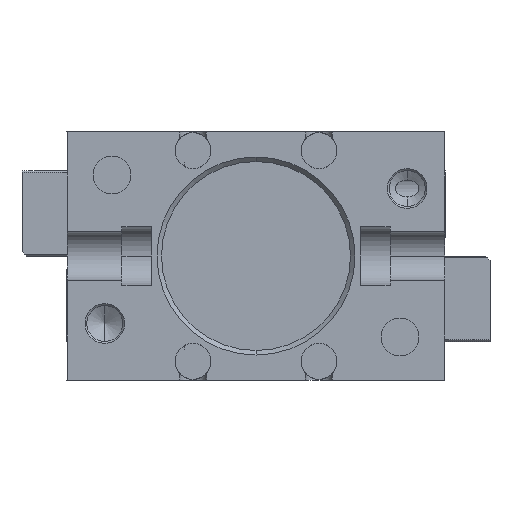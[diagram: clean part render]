
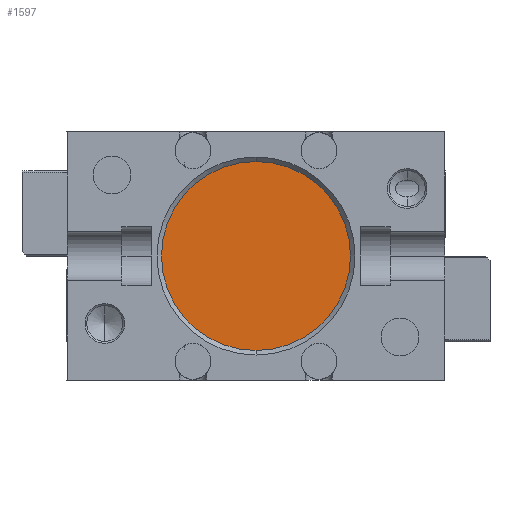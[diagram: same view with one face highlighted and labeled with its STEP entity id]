
A CAD part, front view. The second image highlights one B-rep face of the part: STEP entity #1597.
In plain terms, the highlighted planar face has unit normal (0, -1, 0).
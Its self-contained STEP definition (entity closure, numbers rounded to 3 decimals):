
#1597 = ADVANCED_FACE ( 'NONE', ( #13732 ), #12069, .T. ) ;
#10617 = AXIS2_PLACEMENT_3D ( 'NONE', #39156, #17018, #42867 ) ;
#12051 = DIRECTION ( 'NONE',  ( 0., -1., 0. ) ) ;
#12069 = PLANE ( 'NONE',  #24989 ) ;
#12633 = EDGE_CURVE ( 'NONE', #33869, #12848, #48020, .T. ) ;
#12848 = VERTEX_POINT ( 'NONE', #39812 ) ;
#13522 = ORIENTED_EDGE ( 'NONE', *, *, #14057, .T. ) ;
#13732 = FACE_OUTER_BOUND ( 'NONE', #22447, .T. ) ;
#14057 = EDGE_CURVE ( 'NONE', #12848, #33869, #37617, .T. ) ;
#15767 = DIRECTION ( 'NONE',  ( 0., -1., 0. ) ) ;
#17018 = DIRECTION ( 'NONE',  ( 0., -1., 0. ) ) ;
#22447 = EDGE_LOOP ( 'NONE', ( #37508, #13522 ) ) ;
#24989 = AXIS2_PLACEMENT_3D ( 'NONE', #34231, #15767, #41606 ) ;
#33869 = VERTEX_POINT ( 'NONE', #44218 ) ;
#34208 = CARTESIAN_POINT ( 'NONE',  ( 0., 3., 0. ) ) ;
#34231 = CARTESIAN_POINT ( 'NONE',  ( 0., 3., 0. ) ) ;
#35700 = AXIS2_PLACEMENT_3D ( 'NONE', #34208, #12051, #37907 ) ;
#37508 = ORIENTED_EDGE ( 'NONE', *, *, #12633, .T. ) ;
#37617 = CIRCLE ( 'NONE', #10617, 10.5 ) ;
#37907 = DIRECTION ( 'NONE',  ( 0., 0., -1. ) ) ;
#39156 = CARTESIAN_POINT ( 'NONE',  ( 0., 3., 0. ) ) ;
#39812 = CARTESIAN_POINT ( 'NONE',  ( 0., 3., 10.5 ) ) ;
#41606 = DIRECTION ( 'NONE',  ( 0., 0., -1. ) ) ;
#42867 = DIRECTION ( 'NONE',  ( 0., 0., -1. ) ) ;
#44218 = CARTESIAN_POINT ( 'NONE',  ( 0., 3., -10.5 ) ) ;
#48020 = CIRCLE ( 'NONE', #35700, 10.5 ) ;
